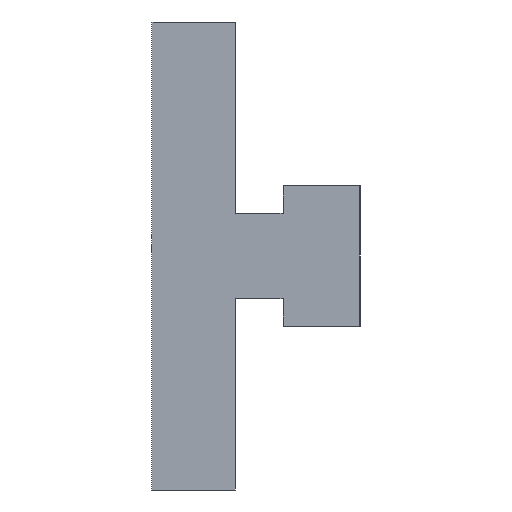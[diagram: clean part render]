
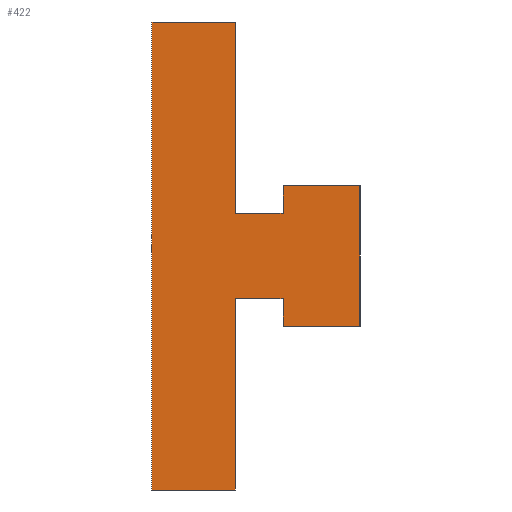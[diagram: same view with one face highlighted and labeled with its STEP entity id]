
A CAD part, left-side view. The second image highlights one B-rep face of the part: STEP entity #422.
In plain terms, the highlighted planar face has unit normal (-1, 0, 0).
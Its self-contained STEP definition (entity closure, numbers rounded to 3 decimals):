
#3 = ORIENTED_EDGE ( 'NONE', *, *, #642, .F. ) ;
#22 = CARTESIAN_POINT ( 'NONE',  ( 0., -9.668, -6.883 ) ) ;
#26 = EDGE_CURVE ( 'NONE', #420, #127, #39, .T. ) ;
#30 = DIRECTION ( 'NONE',  ( 0., -1., 0. ) ) ;
#32 = CARTESIAN_POINT ( 'NONE',  ( 0., 2.332, 22.367 ) ) ;
#39 = LINE ( 'NONE', #399, #373 ) ;
#42 = CARTESIAN_POINT ( 'NONE',  ( 0., -9.668, -6.883 ) ) ;
#48 = DIRECTION ( 'NONE',  ( 0., 1., 0. ) ) ;
#49 = LINE ( 'NONE', #465, #430 ) ;
#75 = PLANE ( 'NONE',  #235 ) ;
#81 = DIRECTION ( 'NONE',  ( 0., 0., -1. ) ) ;
#88 = VECTOR ( 'NONE', #106, 1000. ) ;
#100 = VECTOR ( 'NONE', #563, 1000. ) ;
#102 = LINE ( 'NONE', #410, #100 ) ;
#106 = DIRECTION ( 'NONE',  ( 0., 1., 0. ) ) ;
#107 = DIRECTION ( 'NONE',  ( 0., -1., 0. ) ) ;
#114 = EDGE_CURVE ( 'NONE', #224, #265, #49, .T. ) ;
#116 = EDGE_CURVE ( 'NONE', #472, #315, #564, .T. ) ;
#117 = ORIENTED_EDGE ( 'NONE', *, *, #392, .F. ) ;
#123 = EDGE_CURVE ( 'NONE', #356, #224, #621, .T. ) ;
#126 = CARTESIAN_POINT ( 'NONE',  ( 0., 2.332, 22.367 ) ) ;
#127 = VERTEX_POINT ( 'NONE', #308 ) ;
#131 = CARTESIAN_POINT ( 'NONE',  ( 0., -2.268, 3.967 ) ) ;
#134 = CARTESIAN_POINT ( 'NONE',  ( 0., 0., 0. ) ) ;
#135 = CARTESIAN_POINT ( 'NONE',  ( 0., 2.332, -22.633 ) ) ;
#139 = LINE ( 'NONE', #150, #172 ) ;
#150 = CARTESIAN_POINT ( 'NONE',  ( 0., -2.268, 6.617 ) ) ;
#161 = EDGE_CURVE ( 'NONE', #616, #176, #368, .T. ) ;
#172 = VECTOR ( 'NONE', #107, 1000. ) ;
#176 = VERTEX_POINT ( 'NONE', #22 ) ;
#187 = EDGE_CURVE ( 'NONE', #519, #472, #526, .T. ) ;
#188 = CARTESIAN_POINT ( 'NONE',  ( 0., 2.332, -22.633 ) ) ;
#201 = VECTOR ( 'NONE', #81, 1000. ) ;
#211 = CARTESIAN_POINT ( 'NONE',  ( 0., 10.332, -22.633 ) ) ;
#224 = VERTEX_POINT ( 'NONE', #638 ) ;
#234 = VECTOR ( 'NONE', #554, 1000. ) ;
#235 = AXIS2_PLACEMENT_3D ( 'NONE', #134, #594, #644 ) ;
#251 = DIRECTION ( 'NONE',  ( 0., 0., -1. ) ) ;
#252 = VERTEX_POINT ( 'NONE', #32 ) ;
#262 = CARTESIAN_POINT ( 'NONE',  ( 0., -2.268, 6.617 ) ) ;
#265 = VERTEX_POINT ( 'NONE', #188 ) ;
#277 = CARTESIAN_POINT ( 'NONE',  ( 0., 2.332, 3.967 ) ) ;
#287 = EDGE_CURVE ( 'NONE', #265, #420, #386, .T. ) ;
#296 = VECTOR ( 'NONE', #626, 1000. ) ;
#299 = CARTESIAN_POINT ( 'NONE',  ( 0., -9.668, 6.617 ) ) ;
#305 = ORIENTED_EDGE ( 'NONE', *, *, #187, .F. ) ;
#308 = CARTESIAN_POINT ( 'NONE',  ( 0., 10.332, 22.367 ) ) ;
#315 = VERTEX_POINT ( 'NONE', #262 ) ;
#318 = CARTESIAN_POINT ( 'NONE',  ( 0., -2.268, -4.233 ) ) ;
#356 = VERTEX_POINT ( 'NONE', #318 ) ;
#368 = LINE ( 'NONE', #377, #201 ) ;
#369 = LINE ( 'NONE', #426, #591 ) ;
#373 = VECTOR ( 'NONE', #455, 1000. ) ;
#377 = CARTESIAN_POINT ( 'NONE',  ( 0., -9.668, 6.617 ) ) ;
#386 = LINE ( 'NONE', #135, #234 ) ;
#392 = EDGE_CURVE ( 'NONE', #505, #356, #369, .T. ) ;
#394 = EDGE_CURVE ( 'NONE', #252, #519, #585, .T. ) ;
#399 = CARTESIAN_POINT ( 'NONE',  ( 0., 10.332, -22.633 ) ) ;
#400 = ORIENTED_EDGE ( 'NONE', *, *, #540, .F. ) ;
#403 = ORIENTED_EDGE ( 'NONE', *, *, #116, .F. ) ;
#407 = CARTESIAN_POINT ( 'NONE',  ( 0., -2.268, 3.967 ) ) ;
#410 = CARTESIAN_POINT ( 'NONE',  ( 0., 10.332, 22.367 ) ) ;
#417 = DIRECTION ( 'NONE',  ( 0., 0., 1. ) ) ;
#418 = FACE_OUTER_BOUND ( 'NONE', #631, .T. ) ;
#420 = VERTEX_POINT ( 'NONE', #211 ) ;
#422 = ADVANCED_FACE ( 'NONE', ( #418 ), #75, .F. ) ;
#426 = CARTESIAN_POINT ( 'NONE',  ( 0., -2.268, -6.883 ) ) ;
#430 = VECTOR ( 'NONE', #251, 1000. ) ;
#431 = ORIENTED_EDGE ( 'NONE', *, *, #26, .F. ) ;
#455 = DIRECTION ( 'NONE',  ( 0., 0., 1. ) ) ;
#465 = CARTESIAN_POINT ( 'NONE',  ( 0., 2.332, -4.233 ) ) ;
#472 = VERTEX_POINT ( 'NONE', #131 ) ;
#475 = ORIENTED_EDGE ( 'NONE', *, *, #161, .F. ) ;
#480 = DIRECTION ( 'NONE',  ( 0., 0., 1. ) ) ;
#482 = ORIENTED_EDGE ( 'NONE', *, *, #287, .F. ) ;
#503 = CARTESIAN_POINT ( 'NONE',  ( 0., 2.332, 3.967 ) ) ;
#505 = VERTEX_POINT ( 'NONE', #639 ) ;
#509 = ORIENTED_EDGE ( 'NONE', *, *, #394, .F. ) ;
#518 = EDGE_CURVE ( 'NONE', #315, #616, #139, .T. ) ;
#519 = VERTEX_POINT ( 'NONE', #503 ) ;
#526 = LINE ( 'NONE', #277, #657 ) ;
#532 = ORIENTED_EDGE ( 'NONE', *, *, #114, .F. ) ;
#540 = EDGE_CURVE ( 'NONE', #176, #505, #612, .T. ) ;
#554 = DIRECTION ( 'NONE',  ( 0., 1., 0. ) ) ;
#561 = CARTESIAN_POINT ( 'NONE',  ( 0., -2.268, -4.233 ) ) ;
#563 = DIRECTION ( 'NONE',  ( 0., -1., 0. ) ) ;
#564 = LINE ( 'NONE', #407, #567 ) ;
#567 = VECTOR ( 'NONE', #417, 1000. ) ;
#577 = ORIENTED_EDGE ( 'NONE', *, *, #123, .F. ) ;
#579 = ORIENTED_EDGE ( 'NONE', *, *, #518, .F. ) ;
#585 = LINE ( 'NONE', #126, #296 ) ;
#591 = VECTOR ( 'NONE', #480, 1000. ) ;
#592 = VECTOR ( 'NONE', #48, 1000. ) ;
#594 = DIRECTION ( 'NONE',  ( 1., 0., 0. ) ) ;
#612 = LINE ( 'NONE', #42, #592 ) ;
#616 = VERTEX_POINT ( 'NONE', #299 ) ;
#621 = LINE ( 'NONE', #561, #88 ) ;
#626 = DIRECTION ( 'NONE',  ( 0., 0., -1. ) ) ;
#631 = EDGE_LOOP ( 'NONE', ( #482, #532, #577, #117, #400, #475, #579, #403, #305, #509, #3, #431 ) ) ;
#638 = CARTESIAN_POINT ( 'NONE',  ( 0., 2.332, -4.233 ) ) ;
#639 = CARTESIAN_POINT ( 'NONE',  ( 0., -2.268, -6.883 ) ) ;
#642 = EDGE_CURVE ( 'NONE', #127, #252, #102, .T. ) ;
#644 = DIRECTION ( 'NONE',  ( 0., 0., -1. ) ) ;
#657 = VECTOR ( 'NONE', #30, 1000. ) ;
